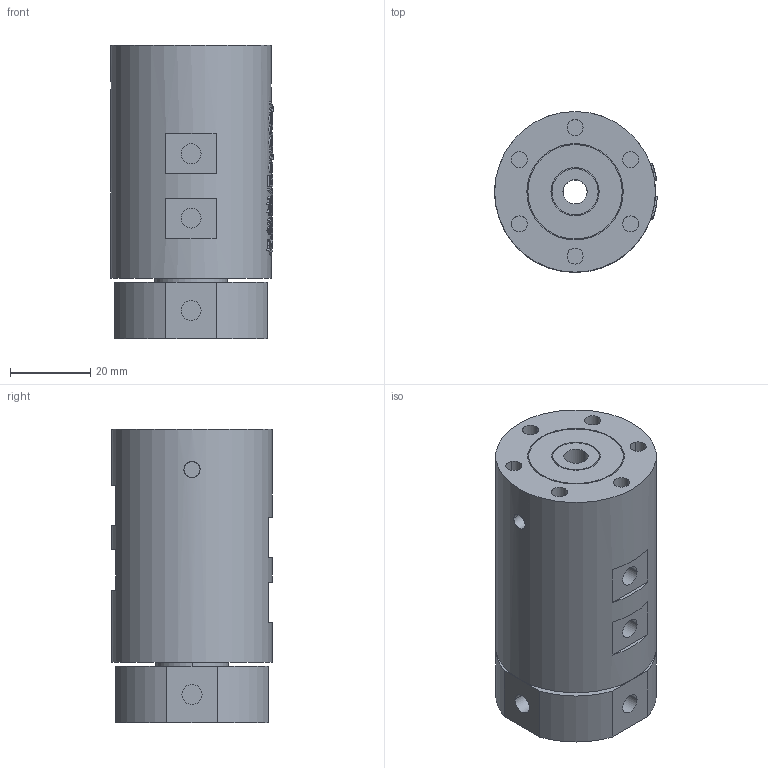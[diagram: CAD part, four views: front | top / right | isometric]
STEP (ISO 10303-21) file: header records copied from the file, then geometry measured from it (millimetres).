
FILE_DESCRIPTION(/* description */ (''),/* implementation_level */ '2;1');
FILE_NAME(/* name */ 'HQ04005.stp',/* time_stamp */ '2025-01-19T18:19:00+08:00',/* author */ (''),/* organization */ (''),/* preprocessor_version */ 'ST-DEVELOPER v16.7',/* originating_system */ 'SIEMENS PLM Software NX 12.0',/* authorisation */ '');
FILE_SCHEMA (('AUTOMOTIVE_DESIGN { 1 0 10303 214 3 1 1 1 }'));
Length unit declared in the file: millimetre
Products named in the file (1): HX0590E89F62bwc3
Bounding box: 40.47 x 40 x 73 mm (x, y, z)
Volume: 85508.7 mm3; surface area: 18519.8 mm2
Topology: 1 solids, 1 shells, 444 faces, 1090 edges, 730 vertices
Faces by surface type: plane 238, cylinder 89, extrusion 88, bspline 29
Full cylindrical faces by diameter (mm): 40 x1
Entity records: 32102 total; most frequent: CARTESIAN_POINT 22568, ORIENTED_EDGE 2138, DIRECTION 1516, EDGE_CURVE 1069, VERTEX_POINT 728, B_SPLINE_CURVE_WITH_KNOTS 665, AXIS2_PLACEMENT_3D 608, EDGE_LOOP 547
